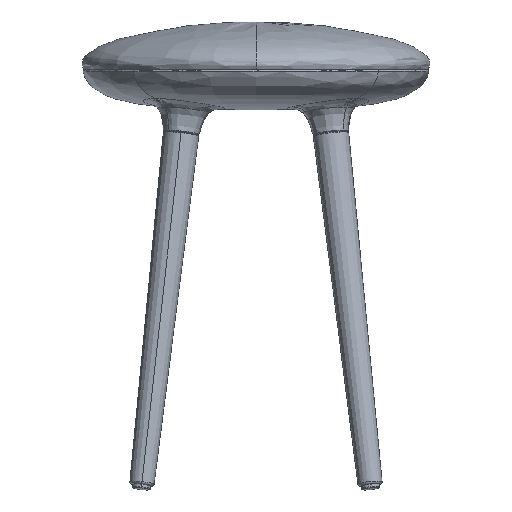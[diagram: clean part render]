
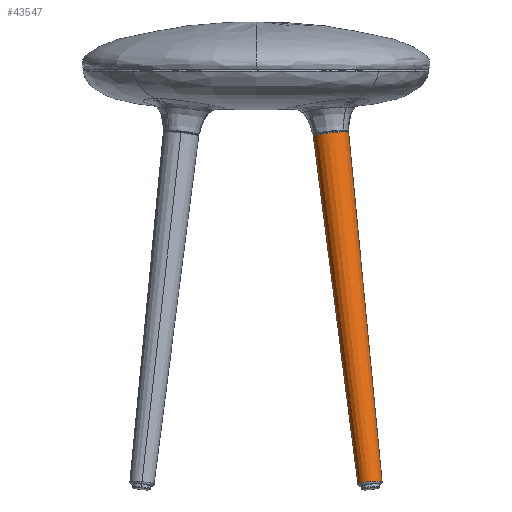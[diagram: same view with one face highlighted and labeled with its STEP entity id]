
A CAD part, left-side view. The second image highlights one B-rep face of the part: STEP entity #43547.
In plain terms, the highlighted conical face has half-angle 0.914 degrees and reference radius 15.953 mm.
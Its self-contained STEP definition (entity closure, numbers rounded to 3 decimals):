
#515 = CARTESIAN_POINT ( 'NONE',  ( -87.784, -62.314, -68.397 ) ) ;
#861 = CARTESIAN_POINT ( 'NONE',  ( -93.635, -68.155, -67.087 ) ) ;
#2276 = VERTEX_POINT ( 'NONE', #39250 ) ;
#4051 = CARTESIAN_POINT ( 'NONE',  ( -82.722, -95.682, -65.227 ) ) ;
#4222 = CARTESIAN_POINT ( 'NONE',  ( -79.193, -96.337, -65.549 ) ) ;
#4404 = CARTESIAN_POINT ( 'NONE',  ( -90.191, -64.053, -67.933 ) ) ;
#4571 = CARTESIAN_POINT ( 'NONE',  ( -93.568, -87.532, -64.925 ) ) ;
#4910 = CARTESIAN_POINT ( 'NONE',  ( -96.349, -79.021, -65.567 ) ) ;
#4959 = LINE ( 'NONE', #22668, #8750 ) ;
#5086 = CARTESIAN_POINT ( 'NONE',  ( -96.329, -76.628, -65.837 ) ) ;
#5240 = VECTOR ( 'NONE', #21001, 1000. ) ;
#6604 = VERTEX_POINT ( 'NONE', #40947 ) ;
#8454 = CARTESIAN_POINT ( 'NONE',  ( -96.355, -77.227, -65.767 ) ) ;
#8750 = VECTOR ( 'NONE', #30452, 1000. ) ;
#8966 = CARTESIAN_POINT ( 'NONE',  ( -94.761, -70.27, -66.724 ) ) ;
#9138 = CARTESIAN_POINT ( 'NONE',  ( -95.784, -73.07, -66.296 ) ) ;
#10568 = CONICAL_SURFACE ( 'NONE', #35822, 15.953, 0.016 ) ;
#12513 = CARTESIAN_POINT ( 'NONE',  ( -80.519, -59.719, -69.501 ) ) ;
#12696 = ORIENTED_EDGE ( 'NONE', *, *, #39736, .T. ) ;
#13027 = CARTESIAN_POINT ( 'NONE',  ( -86.216, -61.449, -68.669 ) ) ;
#13682 = CARTESIAN_POINT ( 'NONE',  ( -77.869, -96.353, -65.695 ) ) ;
#15432 = VERTEX_POINT ( 'NONE', #22062 ) ;
#16054 = CARTESIAN_POINT ( 'NONE',  ( -80.383, -96.204, -65.43 ) ) ;
#16749 = CARTESIAN_POINT ( 'NONE',  ( -95.443, -71.93, -66.462 ) ) ;
#17097 = CARTESIAN_POINT ( 'NONE',  ( -82.865, -60.173, -69.187 ) ) ;
#17254 = LINE ( 'NONE', #33349, #5240 ) ;
#17339 = ORIENTED_EDGE ( 'NONE', *, *, #40127, .T. ) ;
#19008 = CARTESIAN_POINT ( 'NONE',  ( -95.53, -95.53, -224.414 ) ) ;
#19361 = DIRECTION ( 'NONE',  ( 0.111, 0.111, 0.988 ) ) ;
#20122 = CARTESIAN_POINT ( 'NONE',  ( -83.875, -95.319, -65.138 ) ) ;
#20642 = CARTESIAN_POINT ( 'NONE',  ( -95.369, -83.73, -65.149 ) ) ;
#20798 = VERTEX_POINT ( 'NONE', #37540 ) ;
#20994 = CARTESIAN_POINT ( 'NONE',  ( -90.084, -91.667, -64.852 ) ) ;
#21001 = DIRECTION ( 'NONE',  ( 0.111, 0.126, 0.986 ) ) ;
#21326 = CARTESIAN_POINT ( 'NONE',  ( -96.228, -80.211, -65.447 ) ) ;
#22062 = CARTESIAN_POINT ( 'NONE',  ( -118.604, -105.967, -431.149 ) ) ;
#22668 = CARTESIAN_POINT ( 'NONE',  ( -117.661, -130.411, -421.318 ) ) ;
#23321 = VERTEX_POINT ( 'NONE', #37310 ) ;
#23823 = CARTESIAN_POINT ( 'NONE',  ( -77.983, -96.352, -65.682 ) ) ;
#24327 = EDGE_CURVE ( 'NONE', #15432, #20798, #17254, .T. ) ;
#24508 = CARTESIAN_POINT ( 'NONE',  ( -94.449, -85.945, -65.004 ) ) ;
#24631 = B_SPLINE_CURVE_WITH_KNOTS ( 'NONE', 3,
 ( #23823, #4222, #16054, #35850, #4051, #20122, #43991, #24688, #32655, #29111, #28766, #20994, #37080, #41503, #49446, #4571, #44863, #24508, #40815, #20642, #49269, #37255, #21326, #4910, #8454, #5086, #25027, #33338, #9138, #16749, #8966, #36908, #33177, #861, #37434, #45029, #4404, #48933, #515, #28931, #13027, #32836, #41166, #17097, #12513, #25202, #29282 ),
 .UNSPECIFIED., .F., .F.,
 ( 4, 2, 2, 2, 2, 2, 2, 2, 2, 1, 2, 2, 2, 2, 2, 2, 2, 2, 2, 2, 2, 2, 2, 4 ),
 ( 0., 0.004, 0.006, 0.007, 0.011, 0.013, 0.015, 0.018, 0.02, 0.022, 0.024, 0.025, 0.029, 0.031, 0.033, 0.036, 0.038, 0.04, 0.043, 0.047, 0.049, 0.051, 0.054, 0.058 ),
 .UNSPECIFIED. ) ;
#24688 = CARTESIAN_POINT ( 'NONE',  ( -86.112, -94.398, -64.991 ) ) ;
#25027 = CARTESIAN_POINT ( 'NONE',  ( -96.215, -75.427, -65.984 ) ) ;
#25202 = CARTESIAN_POINT ( 'NONE',  ( -79.308, -59.605, -69.649 ) ) ;
#28574 = EDGE_CURVE ( 'NONE', #2276, #20798, #24631, .T. ) ;
#28766 = CARTESIAN_POINT ( 'NONE',  ( -89.149, -92.443, -64.87 ) ) ;
#28931 = CARTESIAN_POINT ( 'NONE',  ( -87.273, -62.009, -68.488 ) ) ;
#29111 = CARTESIAN_POINT ( 'NONE',  ( -88.662, -92.809, -64.883 ) ) ;
#29282 = CARTESIAN_POINT ( 'NONE',  ( -78.097, -59.613, -69.784 ) ) ;
#29307 = B_SPLINE_CURVE_WITH_KNOTS ( 'NONE', 3,
 ( #13682, #50097, #30113, #33824 ),
 .UNSPECIFIED., .F., .F.,
 ( 4, 4 ),
 ( 0., 0. ),
 .UNSPECIFIED. ) ;
#29830 = EDGE_LOOP ( 'NONE', ( #43602, #12696, #49854, #44865, #17339 ) ) ;
#30113 = CARTESIAN_POINT ( 'NONE',  ( -77.945, -96.352, -65.687 ) ) ;
#30452 = DIRECTION ( 'NONE',  ( -0.111, -0.095, -0.989 ) ) ;
#31377 = DIRECTION ( 'NONE',  ( 0.111, 0.111, 0.988 ) ) ;
#32655 = CARTESIAN_POINT ( 'NONE',  ( -87.166, -93.824, -64.937 ) ) ;
#32681 = CIRCLE ( 'NONE', #43191, 12.637 ) ;
#32836 = CARTESIAN_POINT ( 'NONE',  ( -85.668, -61.192, -68.759 ) ) ;
#33177 = CARTESIAN_POINT ( 'NONE',  ( -93.941, -68.666, -66.996 ) ) ;
#33338 = CARTESIAN_POINT ( 'NONE',  ( -96.128, -74.829, -66.061 ) ) ;
#33349 = CARTESIAN_POINT ( 'NONE',  ( -117.818, -105.068, -424.139 ) ) ;
#33824 = CARTESIAN_POINT ( 'NONE',  ( -77.983, -96.352, -65.682 ) ) ;
#34886 = EDGE_CURVE ( 'NONE', #6604, #23321, #4959, .T. ) ;
#34903 = DIRECTION ( 'NONE',  ( -0.006, 0.994, -0.111 ) ) ;
#35233 = FACE_OUTER_BOUND ( 'NONE', #29830, .T. ) ;
#35822 = AXIS2_PLACEMENT_3D ( 'NONE', #19008, #19361, #34903 ) ;
#35850 = CARTESIAN_POINT ( 'NONE',  ( -82.141, -95.834, -65.275 ) ) ;
#36908 = CARTESIAN_POINT ( 'NONE',  ( -94.504, -69.723, -66.814 ) ) ;
#37080 = CARTESIAN_POINT ( 'NONE',  ( -90.529, -91.259, -64.848 ) ) ;
#37255 = CARTESIAN_POINT ( 'NONE',  ( -95.87, -81.989, -65.288 ) ) ;
#37310 = CARTESIAN_POINT ( 'NONE',  ( -118.448, -131.085, -428.353 ) ) ;
#37434 = CARTESIAN_POINT ( 'NONE',  ( -92.647, -66.672, -67.364 ) ) ;
#37540 = CARTESIAN_POINT ( 'NONE',  ( -78.097, -59.613, -69.784 ) ) ;
#39250 = CARTESIAN_POINT ( 'NONE',  ( -77.983, -96.352, -65.682 ) ) ;
#39736 = EDGE_CURVE ( 'NONE', #6604, #2276, #29307, .T. ) ;
#40127 = EDGE_CURVE ( 'NONE', #15432, #23321, #32681, .T. ) ;
#40815 = CARTESIAN_POINT ( 'NONE',  ( -94.963, -84.859, -65.068 ) ) ;
#40947 = CARTESIAN_POINT ( 'NONE',  ( -77.869, -96.353, -65.695 ) ) ;
#41166 = CARTESIAN_POINT ( 'NONE',  ( -84.005, -60.513, -69.022 ) ) ;
#41503 = CARTESIAN_POINT ( 'NONE',  ( -91.799, -89.977, -64.849 ) ) ;
#43191 = AXIS2_PLACEMENT_3D ( 'NONE', #43934, #31377, #51536 ) ;
#43547 = ADVANCED_FACE ( 'NONE', ( #35233 ), #10568, .T. ) ;
#43602 = ORIENTED_EDGE ( 'NONE', *, *, #34886, .F. ) ;
#43934 = CARTESIAN_POINT ( 'NONE',  ( -118.526, -118.526, -429.751 ) ) ;
#43991 = CARTESIAN_POINT ( 'NONE',  ( -84.447, -95.107, -65.098 ) ) ;
#44863 = CARTESIAN_POINT ( 'NONE',  ( -93.881, -87.008, -64.948 ) ) ;
#44865 = ORIENTED_EDGE ( 'NONE', *, *, #24327, .F. ) ;
#45029 = CARTESIAN_POINT ( 'NONE',  ( -91.894, -65.752, -67.552 ) ) ;
#48933 = CARTESIAN_POINT ( 'NONE',  ( -89.268, -63.299, -68.12 ) ) ;
#49269 = CARTESIAN_POINT ( 'NONE',  ( -95.721, -82.579, -65.238 ) ) ;
#49446 = CARTESIAN_POINT ( 'NONE',  ( -92.56, -89.046, -64.868 ) ) ;
#49854 = ORIENTED_EDGE ( 'NONE', *, *, #28574, .T. ) ;
#50097 = CARTESIAN_POINT ( 'NONE',  ( -77.907, -96.353, -65.691 ) ) ;
#51536 = DIRECTION ( 'NONE',  ( 0.994, 0., -0.111 ) ) ;
